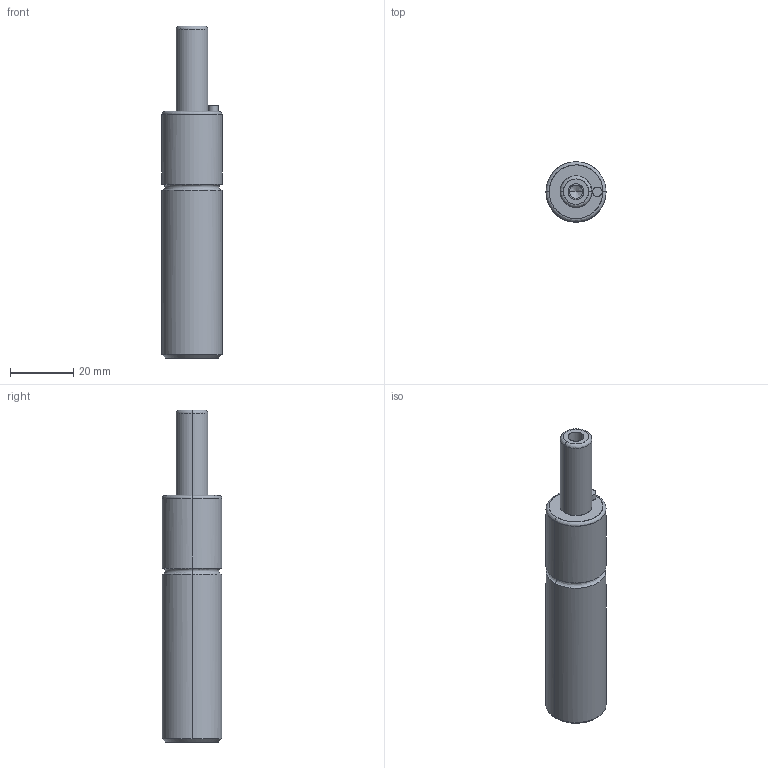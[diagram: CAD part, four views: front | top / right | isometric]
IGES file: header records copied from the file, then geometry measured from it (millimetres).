
Global section: file name: E:\UnigraphicsGraphicData\MISUMI_PRESS-PARTS\IGES\3d_gsm19-25_03937_r00.igs; native system: NX V5.0; preprocessor: UGS NX IGES V5.0; author: MISUMI; date: 20110105.160805; units: millimetre
Bounding box: 19 x 18.95 x 105 mm (x, y, z)
Surface area: 6389.4 mm2 (no closed solid volume)
Topology: 0 solids, 0 shells, 34 faces, 208 edges, 204 vertices
Faces by surface type: bspline 34
